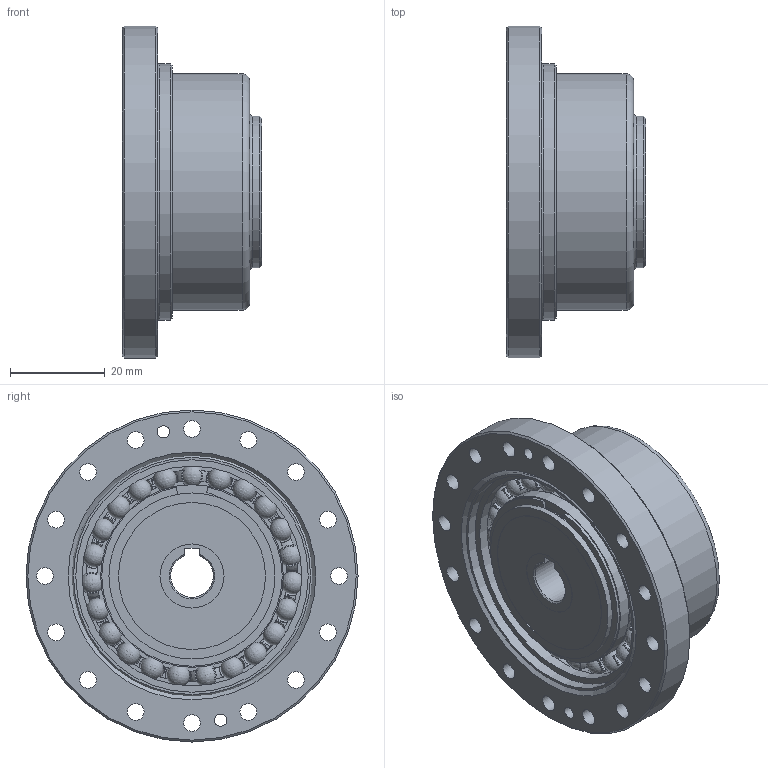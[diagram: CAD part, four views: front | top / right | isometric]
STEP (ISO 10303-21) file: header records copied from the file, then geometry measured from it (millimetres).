
FILE_DESCRIPTION(/* description */ (''),/* implementation_level */ '2;1');
FILE_NAME(/* name */ 'Getriebeset_CTG_51_FK.stp',/* time_stamp */ '2026-03-09T10:51:26+01:00',/* author */ (''),/* organization */ (''),/* preprocessor_version */ 'ST-DEVELOPER v19.4',/* originating_system */ 'SIEMENS PLM Software NX2212.9120',/* authorisation */ '');
FILE_SCHEMA (('AUTOMOTIVE_DESIGN { 1 0 10303 214 3 1 1 1 }'));
Length unit declared in the file: millimetre
Products named in the file (1): Getriebeset_CTG_51_FK
Bounding box: 29.4 x 70 x 70 mm (x, y, z)
Volume: 34011.9 mm3; surface area: 33573.5 mm2
Topology: 30 solids, 30 shells, 283 faces, 802 edges, 542 vertices
Faces by surface type: cylinder 90, plane 69, torus 44, cone 42, sphere 35, bspline 3
Full cylindrical faces by diameter (mm): 2.6 x4, 3.5 x16, 5.5 x8, 13.5 x1, 16 x1, 31 x1, 32 x1, 33.88 x1, 35 x3, 38.5 x3, 43.5 x1, 46.3 x2, 49 x2, 49.9 x1, 50.5 x1, 51.2 x1, 54 x1, 70 x1
Entity records: 11894 total; most frequent: CARTESIAN_POINT 5280, ORIENTED_EDGE 1252, DIRECTION 1215, EDGE_CURVE 626, AXIS2_PLACEMENT_3D 560, VERTEX_POINT 478, EDGE_LOOP 403, ADVANCED_FACE 283
